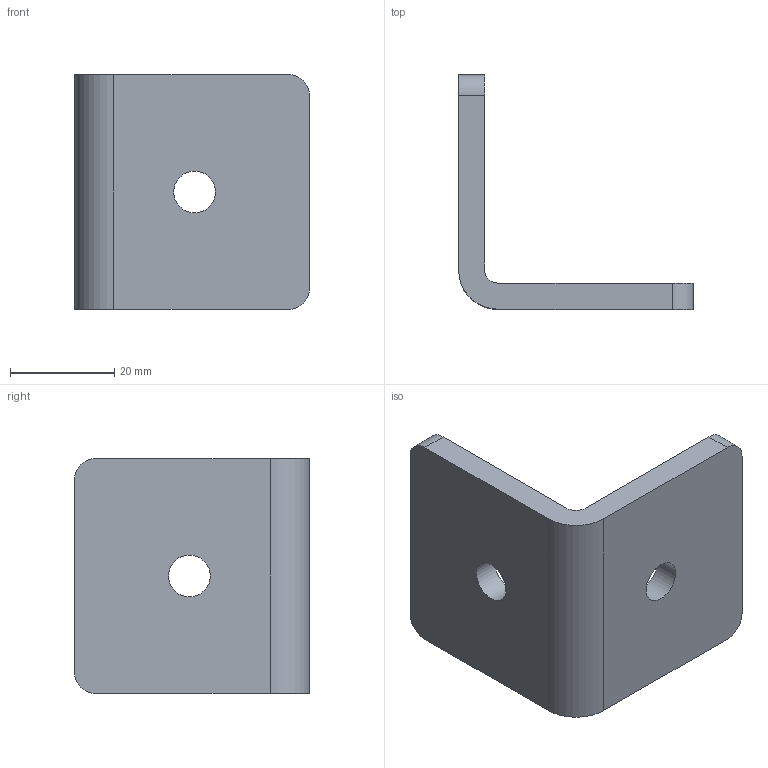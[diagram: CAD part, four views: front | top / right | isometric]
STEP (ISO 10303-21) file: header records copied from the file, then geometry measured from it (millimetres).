
FILE_DESCRIPTION( ( 'STEP AP203' ), '1' );
FILE_NAME( 'C:/Temp/Ganter_Step_05_03_2020/data/3_7/gn_967/gn_967_2/gn_967_2_l/Angle piece GN 967-45-45-L-2-SW.stp', '2020-03-12T14:48:26', ( 'License CC BY-ND 4.0' ), ( 'CADENAS' ), ' ', 'PARTsolutions', ' ' );
FILE_SCHEMA( ( 'CONFIG_CONTROL_DESIGN' ) );
Length unit declared in the file: millimetre
Products named in the file (1): _Angle piece GN 967-45-45-L-2-SW
Bounding box: 45 x 45 x 45 mm (x, y, z)
Volume: 18070.8 mm3; surface area: 8723.9 mm2
Topology: 1 solids, 1 shells, 16 faces, 42 edges, 28 vertices
Faces by surface type: cylinder 8, plane 8
Full cylindrical faces by diameter (mm): 8 x2
Entity records: 544 total; most frequent: DIRECTION 90, CARTESIAN_POINT 85, ORIENTED_EDGE 80, EDGE_CURVE 40, AXIS2_PLACEMENT_3D 33, VERTEX_POINT 28, LINE 24, VECTOR 24
